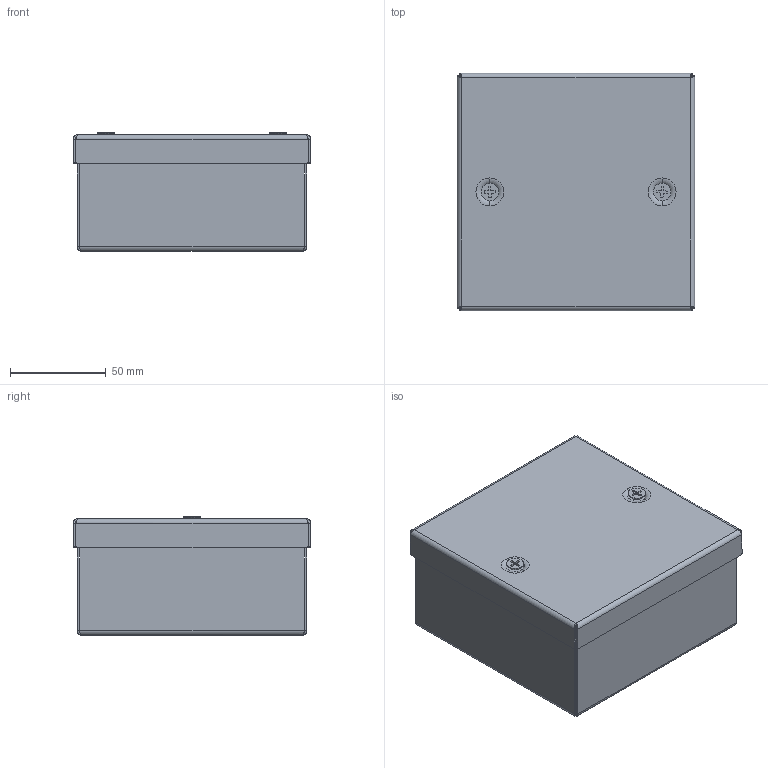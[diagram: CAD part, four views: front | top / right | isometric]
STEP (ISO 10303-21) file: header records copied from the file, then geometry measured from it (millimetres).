
FILE_DESCRIPTION (( 'STEP AP203' ), '1' );
FILE_NAME ('BSS 12.12.06-L Êîðîáêà êëåììíàÿ èç íåðæ. ñòàëè.STEP', '2025-05-06T09:49:02', ( '' ), ( '' ), 'SwSTEP 2.0', 'SolidWorks 2019', '' );
FILE_SCHEMA (( 'CONFIG_CONTROL_DESIGN' ));
Length unit declared in the file: millimetre
Products named in the file (9): BSS X.Y.06.02.001-L Êðûøêà êëåììíàÿ_BSS 12.12.06.02.001-L; BSS X.Y.06.02.000-L ÑÁ Êðûøêà êëåììíàÿ_BSS 12.12.06.02.000-L; Âèíò ñ ïîòàéíîé ãîëîâêîé DIN 965_Œ5å16 ªà¥áâ; Øïèëüêà Ì6õ13; ﾘ琺矜 5 ﾃﾎﾑﾒ 11371-78_Washer DIN 126 - 5.5; Ãàéêà çàêëàäíàÿ êâàäðàòíàÿ îö. Ì5_ƒ ©ª  § ª« ¤­ ï ª¢ ¤à â­ ï ®æ. Œ5 1,7-2,7; BSS 12.12.06-L Êîðîáêà êëåììíàÿ èç íåðæ. ñòàëè; BSS X.Y.06.01.001-L 暑痫篑 觌屐祉_BSS 12.12.06.01.001-L; BSS X.Y.06.01.000-L 蚜 暑痫篑 觌屐祉 疋囵眍開BSS 12.12.06.01.000-L
Assembly tree (12 placements, depth 3):
  BSS 12.12.06-L Êîðîáêà êëåììíàÿ èç íåðæ. ñòàëè
    BSS X.Y.06.01.000-L 蚜 暑痫篑 觌屐祉 疋囵眍開BSS 12.12.06.01.000-L
      BSS X.Y.06.01.001-L 暑痫篑 觌屐祉_BSS 12.12.06.01.001-L
      Øïèëüêà Ì6õ13
    BSS X.Y.06.02.000-L ÑÁ Êðûøêà êëåììíàÿ_BSS 12.12.06.02.000-L
      BSS X.Y.06.02.001-L Êðûøêà êëåììíàÿ_BSS 12.12.06.02.001-L
      Øïèëüêà Ì6õ13
    Âèíò ñ ïîòàéíîé ãîëîâêîé DIN 965_Œ5å16 ªà¥áâ  x2
    ﾘ琺矜 5 ﾃﾎﾑﾒ 11371-78_Washer DIN 126 - 5.5  x2
    Ãàéêà çàêëàäíàÿ êâàäðàòíàÿ îö. Ì5_ƒ ©ª  § ª« ¤­ ï ª¢ ¤à â­ ï ®æ. Œ5 1,7-2,7  x2
Bounding box: 124 x 124 x 62 mm (x, y, z)
Volume: 96729.9 mm3; surface area: 138434.8 mm2
Topology: 12 solids, 12 shells, 649 faces, 1535 edges, 917 vertices
Faces by surface type: plane 355, cylinder 222, bspline 32, cone 28, torus 12
Entity records: 18283 total; most frequent: CARTESIAN_POINT 7587, ORIENTED_EDGE 2024, DIRECTION 1996, EDGE_CURVE 1012, AXIS2_PLACEMENT_3D 677, VECTOR 642, LINE 642, VERTEX_POINT 604
